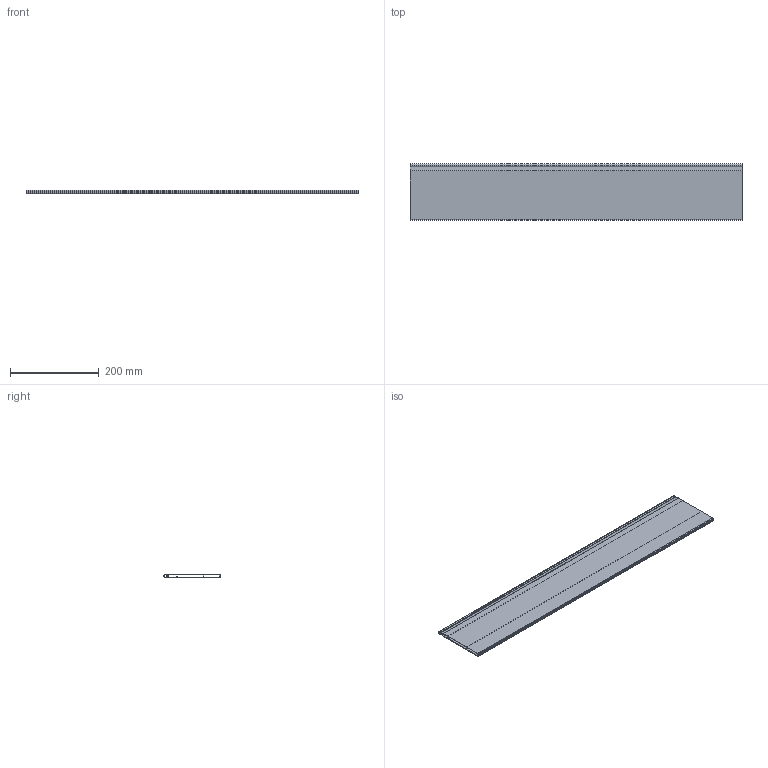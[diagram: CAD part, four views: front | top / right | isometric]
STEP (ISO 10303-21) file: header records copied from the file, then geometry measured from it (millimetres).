
FILE_DESCRIPTION (( 'STEP AP214' ), '1' );
FILE_NAME ('_Magic Optima Unterteilungsprofil DWD XP Agantis_Nova Pro KAB 900.step', '2010-08-17T12:26:47', ( 'grass' ), ( '' ), 'SwSTEP 2.0', 'SolidWorks 2010', '' );
FILE_SCHEMA (( 'AUTOMOTIVE_DESIGN' ));
Length unit declared in the file: millimetre
Products named in the file (1): _Magic Optima Unterteilungsprofil DWD XP Agantis_Nova Pro  KAB 900
Bounding box: 750 x 127.7 x 8.1 mm (x, y, z)
Volume: 262892.5 mm3; surface area: 407350 mm2
Topology: 1 solids, 1 shells, 39 faces, 111 edges, 74 vertices
Faces by surface type: plane 22, cylinder 17
Entity records: 1325 total; most frequent: DIRECTION 225, CARTESIAN_POINT 225, ORIENTED_EDGE 222, EDGE_CURVE 111, VECTOR 77, LINE 77, VERTEX_POINT 74, AXIS2_PLACEMENT_3D 74
